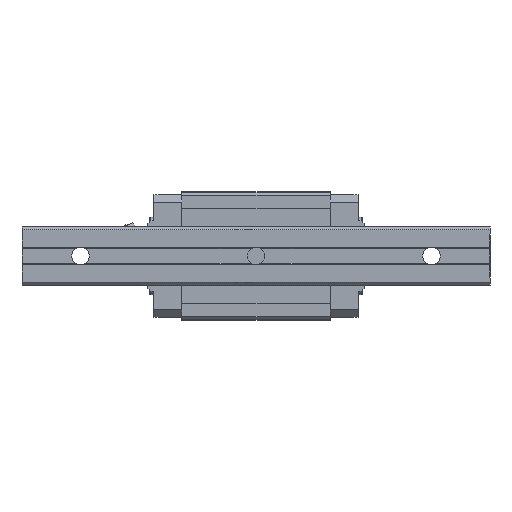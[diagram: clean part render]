
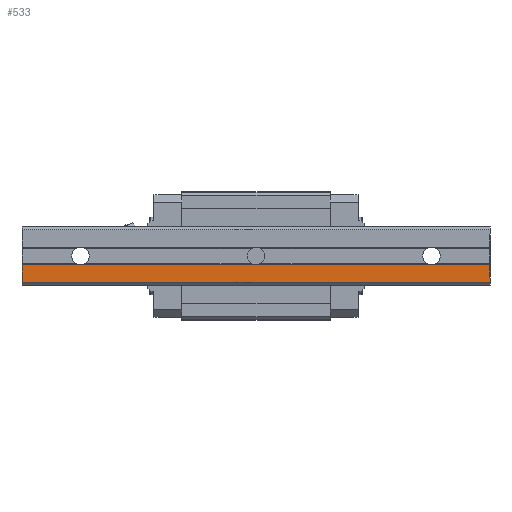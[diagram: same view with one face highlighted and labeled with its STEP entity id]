
A CAD part, front view. The second image highlights one B-rep face of the part: STEP entity #533.
In plain terms, the highlighted planar face has unit normal (0, -1, 0).
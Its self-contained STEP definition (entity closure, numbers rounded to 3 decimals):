
#62 = VERTEX_POINT ( 'NONE', #645 ) ;
#219 = ORIENTED_EDGE ( 'NONE', *, *, #8284, .T. ) ;
#342 = AXIS2_PLACEMENT_3D ( 'NONE', #5794, #8823, #3562 ) ;
#505 = VECTOR ( 'NONE', #4618, 1000. ) ;
#533 = ADVANCED_FACE ( 'NONE', ( #1562 ), #6575, .T. ) ;
#645 = CARTESIAN_POINT ( 'NONE',  ( -20., 0., -3. ) ) ;
#658 = EDGE_CURVE ( 'NONE', #4962, #4924, #4567, .T. ) ;
#758 = EDGE_CURVE ( 'NONE', #62, #5698, #4912, .T. ) ;
#912 = CARTESIAN_POINT ( 'NONE',  ( -20., 0., -9. ) ) ;
#977 = LINE ( 'NONE', #6857, #6734 ) ;
#996 = VECTOR ( 'NONE', #2432, 1000. ) ;
#1392 = CARTESIAN_POINT ( 'NONE',  ( 120., 0., -3. ) ) ;
#1455 = ORIENTED_EDGE ( 'NONE', *, *, #758, .T. ) ;
#1541 = ORIENTED_EDGE ( 'NONE', *, *, #2715, .T. ) ;
#1562 = FACE_OUTER_BOUND ( 'NONE', #6838, .T. ) ;
#1774 = CARTESIAN_POINT ( 'NONE',  ( -20., 0., 0. ) ) ;
#2038 = VECTOR ( 'NONE', #9398, 1000. ) ;
#2109 = VERTEX_POINT ( 'NONE', #5987 ) ;
#2151 = LINE ( 'NONE', #4214, #2038 ) ;
#2401 = LINE ( 'NONE', #4726, #3665 ) ;
#2432 = DIRECTION ( 'NONE',  ( 0., 0., -1. ) ) ;
#2461 = CARTESIAN_POINT ( 'NONE',  ( 140., 0., 0. ) ) ;
#2598 = VECTOR ( 'NONE', #3201, 1000. ) ;
#2715 = EDGE_CURVE ( 'NONE', #2109, #8883, #9122, .T. ) ;
#3201 = DIRECTION ( 'NONE',  ( 0., 0., -1. ) ) ;
#3555 = CARTESIAN_POINT ( 'NONE',  ( -20., 0., -3. ) ) ;
#3562 = DIRECTION ( 'NONE',  ( 0., 0., -1. ) ) ;
#3641 = VERTEX_POINT ( 'NONE', #1392 ) ;
#3665 = VECTOR ( 'NONE', #3941, 1000. ) ;
#3941 = DIRECTION ( 'NONE',  ( -1., 0., 0. ) ) ;
#4111 = EDGE_CURVE ( 'NONE', #5698, #4924, #5805, .T. ) ;
#4184 = EDGE_CURVE ( 'NONE', #8883, #62, #977, .T. ) ;
#4214 = CARTESIAN_POINT ( 'NONE',  ( -20., 0., -3. ) ) ;
#4567 = LINE ( 'NONE', #2461, #2598 ) ;
#4618 = DIRECTION ( 'NONE',  ( 1., 0., 0. ) ) ;
#4726 = CARTESIAN_POINT ( 'NONE',  ( -20., 0., -3. ) ) ;
#4773 = CARTESIAN_POINT ( 'NONE',  ( 140., 0., -9. ) ) ;
#4784 = ORIENTED_EDGE ( 'NONE', *, *, #4111, .T. ) ;
#4834 = ORIENTED_EDGE ( 'NONE', *, *, #658, .F. ) ;
#4865 = CARTESIAN_POINT ( 'NONE',  ( 140., 0., -3. ) ) ;
#4912 = LINE ( 'NONE', #1774, #996 ) ;
#4915 = CARTESIAN_POINT ( 'NONE',  ( 0., 0., -3. ) ) ;
#4924 = VERTEX_POINT ( 'NONE', #4773 ) ;
#4962 = VERTEX_POINT ( 'NONE', #4865 ) ;
#5698 = VERTEX_POINT ( 'NONE', #912 ) ;
#5794 = CARTESIAN_POINT ( 'NONE',  ( -20., 0., -9. ) ) ;
#5805 = LINE ( 'NONE', #8276, #505 ) ;
#5987 = CARTESIAN_POINT ( 'NONE',  ( 60., 0., -3. ) ) ;
#6575 = PLANE ( 'NONE',  #342 ) ;
#6734 = VECTOR ( 'NONE', #7633, 1000. ) ;
#6838 = EDGE_LOOP ( 'NONE', ( #1455, #4784, #4834, #219, #8762, #1541, #8775 ) ) ;
#6857 = CARTESIAN_POINT ( 'NONE',  ( -20., 0., -3. ) ) ;
#7179 = VECTOR ( 'NONE', #7180, 1000. ) ;
#7180 = DIRECTION ( 'NONE',  ( -1., 0., 0. ) ) ;
#7633 = DIRECTION ( 'NONE',  ( -1., 0., 0. ) ) ;
#8062 = EDGE_CURVE ( 'NONE', #3641, #2109, #2151, .T. ) ;
#8276 = CARTESIAN_POINT ( 'NONE',  ( -20., 0., -9. ) ) ;
#8284 = EDGE_CURVE ( 'NONE', #4962, #3641, #2401, .T. ) ;
#8762 = ORIENTED_EDGE ( 'NONE', *, *, #8062, .T. ) ;
#8775 = ORIENTED_EDGE ( 'NONE', *, *, #4184, .T. ) ;
#8823 = DIRECTION ( 'NONE',  ( 0., -1., 0. ) ) ;
#8883 = VERTEX_POINT ( 'NONE', #4915 ) ;
#9122 = LINE ( 'NONE', #3555, #7179 ) ;
#9398 = DIRECTION ( 'NONE',  ( -1., 0., 0. ) ) ;
